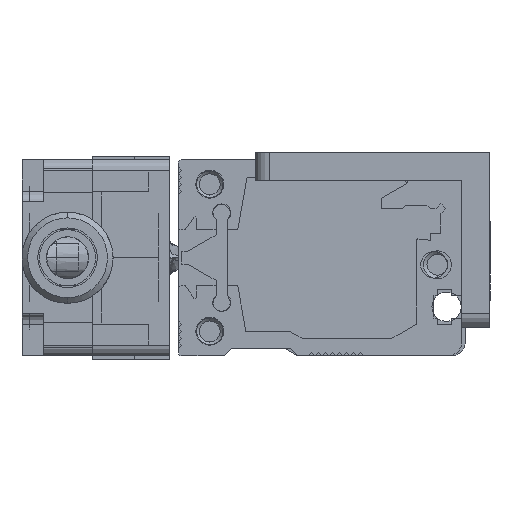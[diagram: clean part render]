
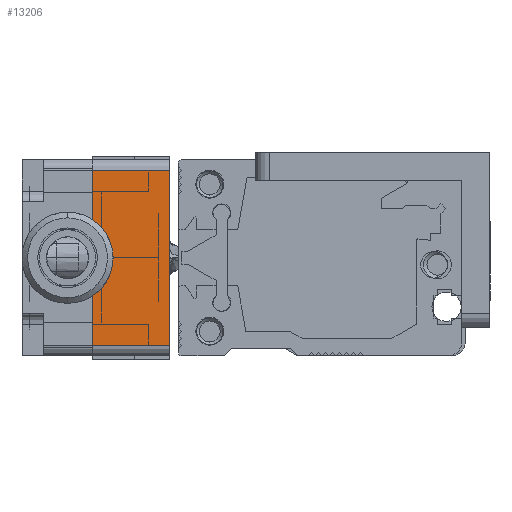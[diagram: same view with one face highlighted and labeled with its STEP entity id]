
A CAD part, left-side view. The second image highlights one B-rep face of the part: STEP entity #13206.
In plain terms, the highlighted planar face has unit normal (-1, 0, 0).
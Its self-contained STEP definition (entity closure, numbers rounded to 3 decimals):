
#1008 = EDGE_LOOP ( 'NONE', ( #17377, #17378, #17379, #17380 ) ) ;
#4447 = CARTESIAN_POINT ( 'NONE',  ( -0.373, -56.938, 13. ) ) ;
#4449 = PLANE ( 'NONE',  #15232 ) ;
#4453 = DIRECTION ( 'NONE',  ( 1., 0., 0. ) ) ;
#4455 = DIRECTION ( 'NONE',  ( 0., 0., -1. ) ) ;
#6266 = EDGE_CURVE ( 'NONE', #8640, #8619, #12907, .T. ) ;
#6267 = EDGE_CURVE ( 'NONE', #8619, #8669, #12909, .T. ) ;
#6270 = EDGE_CURVE ( 'NONE', #8669, #8657, #12913, .T. ) ;
#6271 = EDGE_CURVE ( 'NONE', #8640, #8657, #12915, .T. ) ;
#8619 = VERTEX_POINT ( 'NONE', #18794 ) ;
#8640 = VERTEX_POINT ( 'NONE', #18764 ) ;
#8657 = VERTEX_POINT ( 'NONE', #18743 ) ;
#8669 = VERTEX_POINT ( 'NONE', #18728 ) ;
#11673 = FACE_OUTER_BOUND ( 'NONE', #1008, .T. ) ;
#12284 = DIRECTION ( 'NONE',  ( 0., 0., 1. ) ) ;
#12289 = CARTESIAN_POINT ( 'NONE',  ( -0.373, -56.718, 15.08 ) ) ;
#12294 = DIRECTION ( 'NONE',  ( 0., -1., 0. ) ) ;
#12298 = CARTESIAN_POINT ( 'NONE',  ( -0.373, -45.718, 12.5 ) ) ;
#12322 = DIRECTION ( 'NONE',  ( 0., 0., 1. ) ) ;
#12326 = CARTESIAN_POINT ( 'NONE',  ( -0.373, -45.718, 15.08 ) ) ;
#12329 = DIRECTION ( 'NONE',  ( 0., 1., 0. ) ) ;
#12331 = CARTESIAN_POINT ( 'NONE',  ( -0.373, -56.938, -12.5 ) ) ;
#12907 = LINE ( 'NONE', #12331, #12908 ) ;
#12908 = VECTOR ( 'NONE', #12329, 1000. ) ;
#12909 = LINE ( 'NONE', #12326, #12910 ) ;
#12910 = VECTOR ( 'NONE', #12322, 1000. ) ;
#12913 = LINE ( 'NONE', #12298, #12914 ) ;
#12914 = VECTOR ( 'NONE', #12294, 1000. ) ;
#12915 = LINE ( 'NONE', #12289, #12916 ) ;
#12916 = VECTOR ( 'NONE', #12284, 1000. ) ;
#13206 = ADVANCED_FACE ( 'NONE', ( #11673 ), #4449, .F. ) ;
#15232 = AXIS2_PLACEMENT_3D ( 'NONE', #4447, #4453, #4455 ) ;
#17377 = ORIENTED_EDGE ( 'NONE', *, *, #6271, .T. ) ;
#17378 = ORIENTED_EDGE ( 'NONE', *, *, #6270, .F. ) ;
#17379 = ORIENTED_EDGE ( 'NONE', *, *, #6267, .F. ) ;
#17380 = ORIENTED_EDGE ( 'NONE', *, *, #6266, .F. ) ;
#18728 = CARTESIAN_POINT ( 'NONE',  ( -0.373, -45.718, 12.5 ) ) ;
#18743 = CARTESIAN_POINT ( 'NONE',  ( -0.373, -56.718, 12.5 ) ) ;
#18764 = CARTESIAN_POINT ( 'NONE',  ( -0.373, -56.718, -12.5 ) ) ;
#18794 = CARTESIAN_POINT ( 'NONE',  ( -0.373, -45.718, -12.5 ) ) ;
